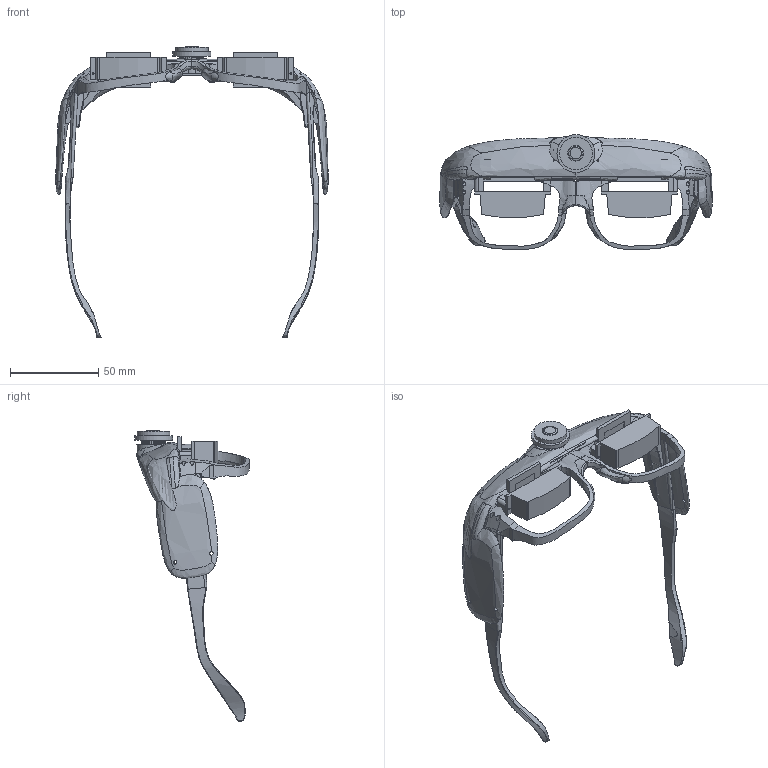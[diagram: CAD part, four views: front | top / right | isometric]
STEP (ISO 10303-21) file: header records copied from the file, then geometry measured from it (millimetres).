
FILE_DESCRIPTION(/* description */ (''),/* implementation_level */ '2;1');
FILE_NAME(/* name */ 'Glasses v19.step',/* time_stamp */ '2023-04-25T16:08:11+08:00',/* author */ (''),/* organization */ (''),/* preprocessor_version */ 'ST-DEVELOPER v19.2',/* originating_system */ 'Autodesk Translation Framework v12.4.0.73',/* authorisation */ '');
FILE_SCHEMA (('AUTOMOTIVE_DESIGN { 1 0 10303 214 3 1 1 }'));
Products named in the file (13): Glasses; 眼镜腿; 本体; OSAR v4; Camera Module NVision; PCB 1; Camera Block; Lenz; 15 Pin Ribbon Block Assem; 0603 Resistor; PiCam_WideAngle v1; Lense frame; 上表壳
Assembly tree (12 placements, depth 4):
  Glasses
    眼镜腿
    本体
    OSAR v4
    Camera Module NVision
      PCB 1
      Camera Block
      Lenz
      15 Pin Ribbon Block Assem
      0603 Resistor
      PiCam_WideAngle v1
        Lense frame
    上表壳
Bounding box: 154.03 x 65.02 x 164.36 mm (x, y, z)
Volume: 53802 mm3; surface area: 44374.3 mm2
Topology: 18 solids, 20 shells, 886 faces, 2510 edges, 1654 vertices
Faces by surface type: plane 386, bspline 336, cylinder 163, torus 1
Full cylindrical faces by diameter (mm): 1 x6, 1.5 x2, 2 x16, 2.06 x4, 2.2 x8, 4 x10, 8 x1, 12 x1, 15 x1, 18.55 x1, 21.5 x1
Entity records: 81578 total; most frequent: CARTESIAN_POINT 61479, ORIENTED_EDGE 4984, DIRECTION 2658, EDGE_CURVE 2492, VERTEX_POINT 1646, B_SPLINE_CURVE_WITH_KNOTS 1276, EDGE_LOOP 960, AXIS2_PLACEMENT_3D 900
